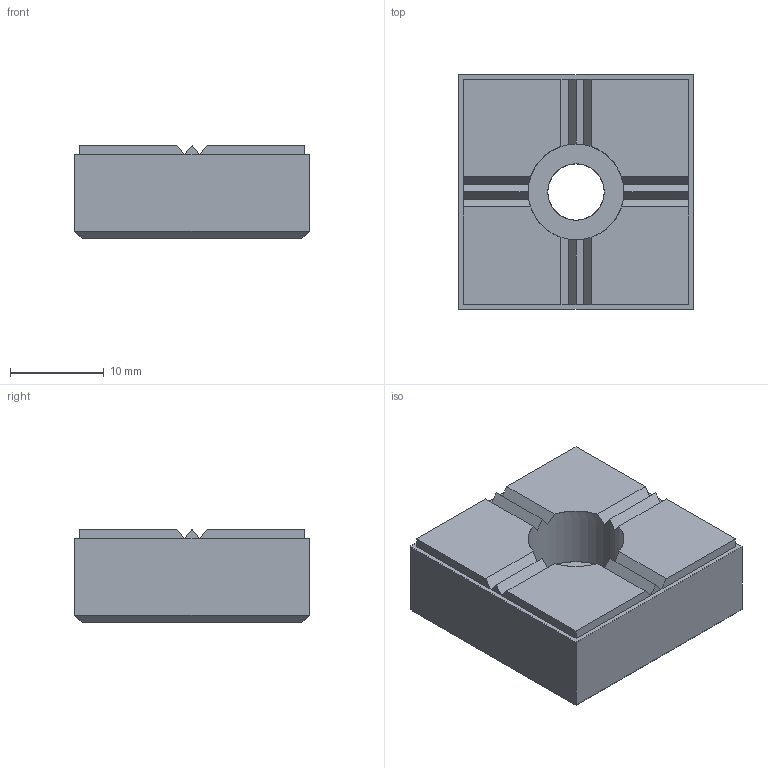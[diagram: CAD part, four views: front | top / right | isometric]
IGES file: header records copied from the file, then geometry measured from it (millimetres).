
Start section: SolidWorks IGES FILE using analytic representation for surfaces
Global section: file name: C:\WIX2\Positioning\3549\3549W005.igs; native system: SolidWorks 2003 by SolidWorks Corporation; preprocessor: Version 5.3; author: Joan; date: 030722.164427; units: millimetre
Bounding box: 25 x 25 x 10 mm (x, y, z)
Surface area: 2457.9 mm2 (no closed solid volume)
Topology: 0 solids, 0 shells, 47 faces, 322 edges, 322 vertices
Faces by surface type: bspline 43, revolution 4
